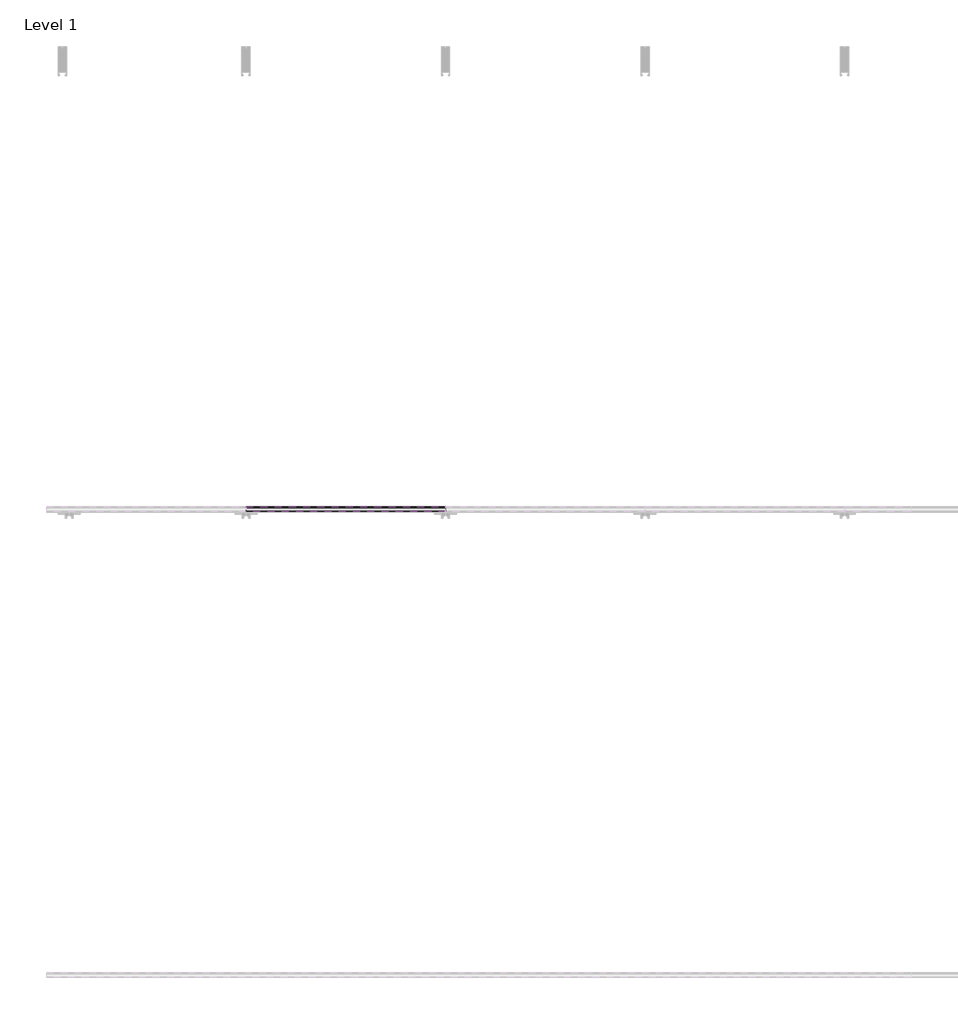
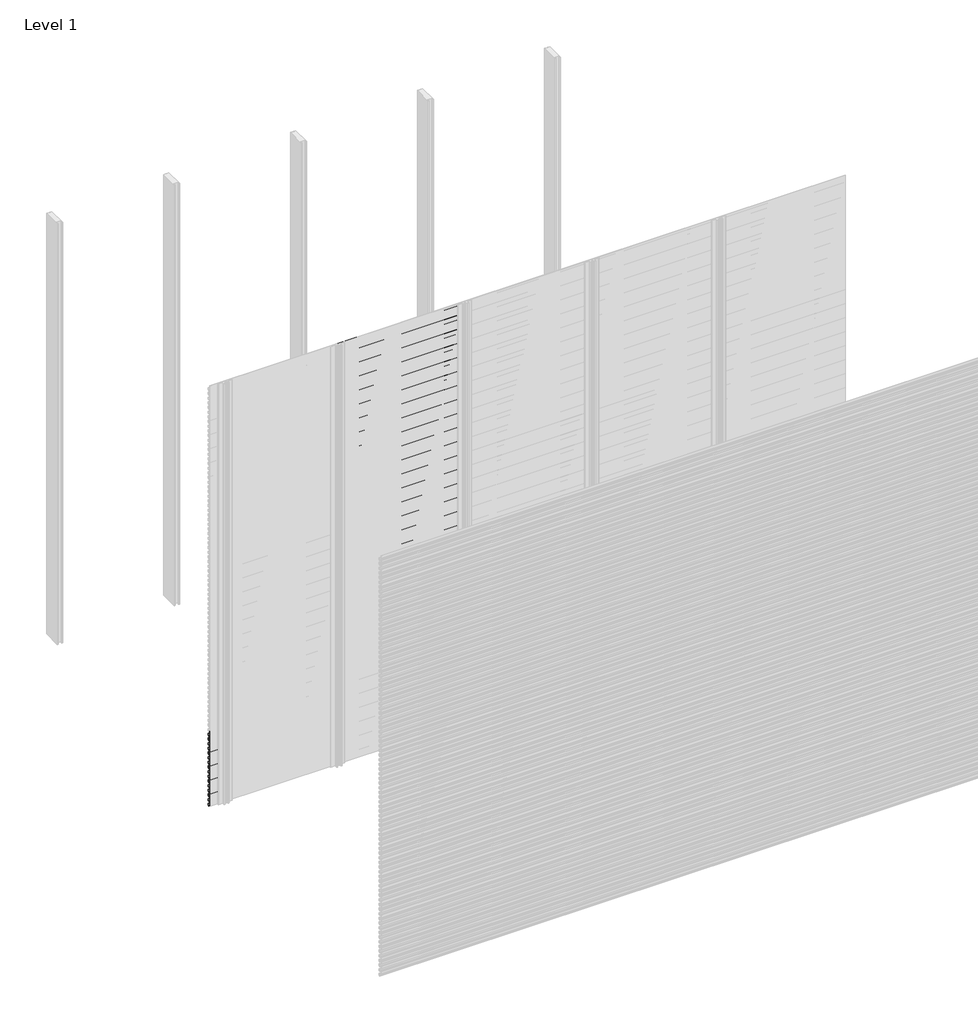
# One storey, part 6 of 96: 77 proxies.
"""IFC4 building model written with IfcOpenShell, lengths in millimetres."""

from ifc_helpers import new_model, si_unit, frame, origin, place, context, project, spatial, polyline, outline, extrude, element, save

model = new_model("IFC4")

# Units and contexts
model_context = context("Model", 3, world=origin())
ifc_project = project(units=[si_unit("LENGTHUNIT", "METRE", prefix="MILLI")], contexts=[model_context])

# Site, building, storey
site = spatial("IfcSite", under=ifc_project)
building = spatial("IfcBuilding", under=site)
storey = spatial("IfcBuildingStorey", under=building, Name="Level 1", Elevation=0.0)

# Proxies
placement = place(None, origin())
element("IfcBuildingElementProxy", 1, Name="Wall Sweeps", at=placement, inside=storey, context=model_context, shape_type="SweptSolid", body=[
    extrude(outline(polyline([(-53977.6, 507.5655033), (-53977.6, 493.2779188), (-53982.4114965, 490.5), (-53982.4114965, 491.7701706), (-53978.85, 493.8264016), (-53978.85, 506.8437382), (-53998.0, 517.9000799), (-53998.0, 532.8), (-53996.75, 532.8), (-53996.75, 518.6217609), (-53977.6, 507.5655033)])), frame((0.0, 0.0, 0.0), z_axis=(1.0, 0.0, 0.0), x_axis=(0.0, 1.0, 0.0)), (0.0, 0.0, 1.0), 857.1428571),
])
element("IfcBuildingElementProxy", 2, Name="Wall Sweeps", at=placement, inside=storey, context=model_context, shape_type="SweptSolid", body=[
    extrude(outline(polyline([(-53977.6, 474.2655033), (-53977.6, 459.9779188), (-53982.4114965, 457.2), (-53982.4114965, 458.4701706), (-53978.85, 460.5264016), (-53978.85, 473.5437382), (-53998.0, 484.6000799), (-53998.0, 499.5), (-53996.75, 499.5), (-53996.75, 485.3217609), (-53977.6, 474.2655033)])), frame((0.0, 0.0, 0.0), z_axis=(1.0, 0.0, 0.0), x_axis=(0.0, 1.0, 0.0)), (0.0, 0.0, 1.0), 857.1428571),
])
element("IfcBuildingElementProxy", 3, Name="Wall Sweeps", at=placement, inside=storey, context=model_context, shape_type="SweptSolid", body=[
    extrude(outline(polyline([(-53977.6, 440.9655033), (-53977.6, 426.6779188), (-53982.4114965, 423.9), (-53982.4114965, 425.1701706), (-53978.85, 427.2264016), (-53978.85, 440.2437382), (-53998.0, 451.3000799), (-53998.0, 466.2), (-53996.75, 466.2), (-53996.75, 452.0217609), (-53977.6, 440.9655033)])), frame((0.0, 0.0, 0.0), z_axis=(1.0, 0.0, 0.0), x_axis=(0.0, 1.0, 0.0)), (0.0, 0.0, 1.0), 857.1428571),
])
element("IfcBuildingElementProxy", 4, Name="Wall Sweeps", at=placement, inside=storey, context=model_context, shape_type="SweptSolid", body=[
    extrude(outline(polyline([(-53977.6, 407.6655033), (-53977.6, 393.3779188), (-53982.4114965, 390.6), (-53982.4114965, 391.8701706), (-53978.85, 393.9264016), (-53978.85, 406.9437382), (-53998.0, 418.0000799), (-53998.0, 432.9), (-53996.75, 432.9), (-53996.75, 418.7217609), (-53977.6, 407.6655033)])), frame((0.0, 0.0, 0.0), z_axis=(1.0, 0.0, 0.0), x_axis=(0.0, 1.0, 0.0)), (0.0, 0.0, 1.0), 857.1428571),
])
element("IfcBuildingElementProxy", 5, Name="Wall Sweeps", at=placement, inside=storey, context=model_context, shape_type="SweptSolid", body=[
    extrude(outline(polyline([(-53977.6, 374.3655033), (-53977.6, 360.0779188), (-53982.4114965, 357.3), (-53982.4114965, 358.5701706), (-53978.85, 360.6264016), (-53978.85, 373.6437382), (-53998.0, 384.7000799), (-53998.0, 399.6), (-53996.75, 399.6), (-53996.75, 385.4217609), (-53977.6, 374.3655033)])), frame((0.0, 0.0, 0.0), z_axis=(1.0, 0.0, 0.0), x_axis=(0.0, 1.0, 0.0)), (0.0, 0.0, 1.0), 857.1428571),
])
element("IfcBuildingElementProxy", 6, Name="Wall Sweeps", at=placement, inside=storey, context=model_context, shape_type="SweptSolid", body=[
    extrude(outline(polyline([(-53977.6, 341.0655033), (-53977.6, 326.7779188), (-53982.4114965, 324.0), (-53982.4114965, 325.2701706), (-53978.85, 327.3264016), (-53978.85, 340.3437382), (-53998.0, 351.4000799), (-53998.0, 366.3), (-53996.75, 366.3), (-53996.75, 352.1217609), (-53977.6, 341.0655033)])), frame((0.0, 0.0, 0.0), z_axis=(1.0, 0.0, 0.0), x_axis=(0.0, 1.0, 0.0)), (0.0, 0.0, 1.0), 857.1428571),
])
element("IfcBuildingElementProxy", 7, Name="Wall Sweeps", at=placement, inside=storey, context=model_context, shape_type="SweptSolid", body=[
    extrude(outline(polyline([(-53977.6, 307.7655033), (-53977.6, 293.4779188), (-53982.4114965, 290.7), (-53982.4114965, 291.9701706), (-53978.85, 294.0264016), (-53978.85, 307.0437382), (-53998.0, 318.1000799), (-53998.0, 333.0), (-53996.75, 333.0), (-53996.75, 318.8217609), (-53977.6, 307.7655033)])), frame((0.0, 0.0, 0.0), z_axis=(1.0, 0.0, 0.0), x_axis=(0.0, 1.0, 0.0)), (0.0, 0.0, 1.0), 857.1428571),
])
element("IfcBuildingElementProxy", 8, Name="Wall Sweeps", at=placement, inside=storey, context=model_context, shape_type="SweptSolid", body=[
    extrude(outline(polyline([(-53977.6, 274.4655033), (-53977.6, 260.1779188), (-53982.4114965, 257.4), (-53982.4114965, 258.6701706), (-53978.85, 260.7264016), (-53978.85, 273.7437382), (-53998.0, 284.8000799), (-53998.0, 299.7), (-53996.75, 299.7), (-53996.75, 285.5217609), (-53977.6, 274.4655033)])), frame((0.0, 0.0, 0.0), z_axis=(1.0, 0.0, 0.0), x_axis=(0.0, 1.0, 0.0)), (0.0, 0.0, 1.0), 857.1428571),
])
element("IfcBuildingElementProxy", 9, Name="Wall Sweeps", at=placement, inside=storey, context=model_context, shape_type="SweptSolid", body=[
    extrude(outline(polyline([(-53977.6, 241.1655033), (-53977.6, 226.8779188), (-53982.4114965, 224.1), (-53982.4114965, 225.3701706), (-53978.85, 227.4264016), (-53978.85, 240.4437382), (-53998.0, 251.5000799), (-53998.0, 266.4), (-53996.75, 266.4), (-53996.75, 252.2217609), (-53977.6, 241.1655033)])), frame((0.0, 0.0, 0.0), z_axis=(1.0, 0.0, 0.0), x_axis=(0.0, 1.0, 0.0)), (0.0, 0.0, 1.0), 857.1428571),
])
element("IfcBuildingElementProxy", 10, Name="Wall Sweeps", at=placement, inside=storey, context=model_context, shape_type="SweptSolid", body=[
    extrude(outline(polyline([(-53977.6, 207.8655033), (-53977.6, 193.5779188), (-53982.4114965, 190.8), (-53982.4114965, 192.0701706), (-53978.85, 194.1264016), (-53978.85, 207.1437382), (-53998.0, 218.2000799), (-53998.0, 233.1), (-53996.75, 233.1), (-53996.75, 218.9217609), (-53977.6, 207.8655033)])), frame((0.0, 0.0, 0.0), z_axis=(1.0, 0.0, 0.0), x_axis=(0.0, 1.0, 0.0)), (0.0, 0.0, 1.0), 857.1428571),
])
element("IfcBuildingElementProxy", 11, Name="Wall Sweeps", at=placement, inside=storey, context=model_context, shape_type="SweptSolid", body=[
    extrude(outline(polyline([(-53977.6, 174.5655033), (-53977.6, 160.2779188), (-53982.4114965, 157.5), (-53982.4114965, 158.7701706), (-53978.85, 160.8264016), (-53978.85, 173.8437382), (-53998.0, 184.9000799), (-53998.0, 199.8), (-53996.75, 199.8), (-53996.75, 185.6217609), (-53977.6, 174.5655033)])), frame((0.0, 0.0, 0.0), z_axis=(1.0, 0.0, 0.0), x_axis=(0.0, 1.0, 0.0)), (0.0, 0.0, 1.0), 857.1428571),
])
element("IfcBuildingElementProxy", 12, Name="Wall Sweeps", at=placement, inside=storey, context=model_context, shape_type="SweptSolid", body=[
    extrude(outline(polyline([(-53977.6, 141.2655033), (-53977.6, 126.9779188), (-53982.4114965, 124.2), (-53982.4114965, 125.4701706), (-53978.85, 127.5264016), (-53978.85, 140.5437382), (-53998.0, 151.6000799), (-53998.0, 166.5), (-53996.75, 166.5), (-53996.75, 152.3217609), (-53977.6, 141.2655033)])), frame((0.0, 0.0, 0.0), z_axis=(1.0, 0.0, 0.0), x_axis=(0.0, 1.0, 0.0)), (0.0, 0.0, 1.0), 857.1428571),
])
element("IfcBuildingElementProxy", 13, Name="Wall Sweeps", at=placement, inside=storey, context=model_context, shape_type="SweptSolid", body=[
    extrude(outline(polyline([(-53977.6, 107.9655033), (-53977.6, 93.6779188), (-53982.4114965, 90.9), (-53982.4114965, 92.1701706), (-53978.85, 94.2264016), (-53978.85, 107.2437382), (-53998.0, 118.3000799), (-53998.0, 133.2), (-53996.75, 133.2), (-53996.75, 119.0217609), (-53977.6, 107.9655033)])), frame((0.0, 0.0, 0.0), z_axis=(1.0, 0.0, 0.0), x_axis=(0.0, 1.0, 0.0)), (0.0, 0.0, 1.0), 857.1428571),
])
element("IfcBuildingElementProxy", 14, Name="Wall Sweeps", at=placement, inside=storey, context=model_context, shape_type="SweptSolid", body=[
    extrude(outline(polyline([(-53977.6, 74.6655033), (-53977.6, 60.3779188), (-53982.4114965, 57.6), (-53982.4114965, 58.8701706), (-53978.85, 60.9264016), (-53978.85, 73.9437382), (-53998.0, 85.0000799), (-53998.0, 99.9), (-53996.75, 99.9), (-53996.75, 85.7217609), (-53977.6, 74.6655033)])), frame((0.0, 0.0, 0.0), z_axis=(1.0, 0.0, 0.0), x_axis=(0.0, 1.0, 0.0)), (0.0, 0.0, 1.0), 857.1428571),
])
element("IfcBuildingElementProxy", 15, Name="Wall Sweeps", at=placement, inside=storey, context=model_context, shape_type="SweptSolid", body=[
    extrude(outline(polyline([(-53977.6, 41.3655033), (-53977.6, 27.0779188), (-53982.4114965, 24.3), (-53982.4114965, 25.5701706), (-53978.85, 27.6264016), (-53978.85, 40.6437382), (-53998.0, 51.7000799), (-53998.0, 66.6), (-53996.75, 66.6), (-53996.75, 52.4217609), (-53977.6, 41.3655033)])), frame((0.0, 0.0, 0.0), z_axis=(1.0, 0.0, 0.0), x_axis=(0.0, 1.0, 0.0)), (0.0, 0.0, 1.0), 857.1428571),
])
element("IfcBuildingElementProxy", 16, Name="Wall Sweeps", at=placement, inside=storey, context=model_context, shape_type="SweptSolid", body=[
    extrude(outline(polyline([(-53977.6, 8.0655033), (-53977.6, -6.2220812), (-53982.4114965, -9.0), (-53982.4114965, -7.7298294), (-53978.85, -5.6735984), (-53978.85, 7.3437382), (-53998.0, 18.4000799), (-53998.0, 33.3), (-53996.75, 33.3), (-53996.75, 19.1217609), (-53977.6, 8.0655033)])), frame((0.0, 0.0, 0.0), z_axis=(1.0, 0.0, 0.0), x_axis=(0.0, 1.0, 0.0)), (0.0, 0.0, 1.0), 857.1428571),
])
element("IfcBuildingElementProxy", 17, Name="Wall Sweeps", at=placement, inside=storey, context=model_context, shape_type="SweptSolid", body=[
    extrude(outline(polyline([(-53977.6, 2971.7655033), (-53977.6, 2957.4779188), (-53982.4114965, 2954.7), (-53982.4114965, 2955.9701706), (-53978.85, 2958.0264016), (-53978.85, 2971.0437382), (-53998.0, 2982.1000799), (-53998.0, 2997.0), (-53996.75, 2997.0), (-53996.75, 2982.8217609), (-53977.6, 2971.7655033)])), frame((857.1428571, 0.0, 0.0), z_axis=(1.0, 0.0, 0.0), x_axis=(0.0, 1.0, 0.0)), (0.0, 0.0, 1.0), 857.1428571),
])
element("IfcBuildingElementProxy", 18, Name="Wall Sweeps", at=placement, inside=storey, context=model_context, shape_type="SweptSolid", body=[
    extrude(outline(polyline([(-53977.6, 2938.4655033), (-53977.6, 2924.1779188), (-53982.4114965, 2921.4), (-53982.4114965, 2922.6701706), (-53978.85, 2924.7264016), (-53978.85, 2937.7437382), (-53998.0, 2948.8000799), (-53998.0, 2963.7), (-53996.75, 2963.7), (-53996.75, 2949.5217609), (-53977.6, 2938.4655033)])), frame((857.1428571, 0.0, 0.0), z_axis=(1.0, 0.0, 0.0), x_axis=(0.0, 1.0, 0.0)), (0.0, 0.0, 1.0), 857.1428571),
])
element("IfcBuildingElementProxy", 19, Name="Wall Sweeps", at=placement, inside=storey, context=model_context, shape_type="SweptSolid", body=[
    extrude(outline(polyline([(-53977.6, 2905.1655033), (-53977.6, 2890.8779188), (-53982.4114965, 2888.1), (-53982.4114965, 2889.3701706), (-53978.85, 2891.4264016), (-53978.85, 2904.4437382), (-53998.0, 2915.5000799), (-53998.0, 2930.4), (-53996.75, 2930.4), (-53996.75, 2916.2217609), (-53977.6, 2905.1655033)])), frame((857.1428571, 0.0, 0.0), z_axis=(1.0, 0.0, 0.0), x_axis=(0.0, 1.0, 0.0)), (0.0, 0.0, 1.0), 857.1428571),
])
element("IfcBuildingElementProxy", 20, Name="Wall Sweeps", at=placement, inside=storey, context=model_context, shape_type="SweptSolid", body=[
    extrude(outline(polyline([(-53977.6, 2871.8655033), (-53977.6, 2857.5779188), (-53982.4114965, 2854.8), (-53982.4114965, 2856.0701706), (-53978.85, 2858.1264016), (-53978.85, 2871.1437382), (-53998.0, 2882.2000799), (-53998.0, 2897.1), (-53996.75, 2897.1), (-53996.75, 2882.9217609), (-53977.6, 2871.8655033)])), frame((857.1428571, 0.0, 0.0), z_axis=(1.0, 0.0, 0.0), x_axis=(0.0, 1.0, 0.0)), (0.0, 0.0, 1.0), 857.1428571),
])
element("IfcBuildingElementProxy", 21, Name="Wall Sweeps", at=placement, inside=storey, context=model_context, shape_type="SweptSolid", body=[
    extrude(outline(polyline([(-53977.6, 2838.5655033), (-53977.6, 2824.2779188), (-53982.4114965, 2821.5), (-53982.4114965, 2822.7701706), (-53978.85, 2824.8264016), (-53978.85, 2837.8437382), (-53998.0, 2848.9000799), (-53998.0, 2863.8), (-53996.75, 2863.8), (-53996.75, 2849.6217609), (-53977.6, 2838.5655033)])), frame((857.1428571, 0.0, 0.0), z_axis=(1.0, 0.0, 0.0), x_axis=(0.0, 1.0, 0.0)), (0.0, 0.0, 1.0), 857.1428571),
])
element("IfcBuildingElementProxy", 22, Name="Wall Sweeps", at=placement, inside=storey, context=model_context, shape_type="SweptSolid", body=[
    extrude(outline(polyline([(-53977.6, 2805.2655033), (-53977.6, 2790.9779188), (-53982.4114965, 2788.2), (-53982.4114965, 2789.4701706), (-53978.85, 2791.5264016), (-53978.85, 2804.5437382), (-53998.0, 2815.6000799), (-53998.0, 2830.5), (-53996.75, 2830.5), (-53996.75, 2816.3217609), (-53977.6, 2805.2655033)])), frame((857.1428571, 0.0, 0.0), z_axis=(1.0, 0.0, 0.0), x_axis=(0.0, 1.0, 0.0)), (0.0, 0.0, 1.0), 857.1428571),
])
element("IfcBuildingElementProxy", 23, Name="Wall Sweeps", at=placement, inside=storey, context=model_context, shape_type="SweptSolid", body=[
    extrude(outline(polyline([(-53977.6, 2771.9655033), (-53977.6, 2757.6779188), (-53982.4114965, 2754.9), (-53982.4114965, 2756.1701706), (-53978.85, 2758.2264016), (-53978.85, 2771.2437382), (-53998.0, 2782.3000799), (-53998.0, 2797.2), (-53996.75, 2797.2), (-53996.75, 2783.0217609), (-53977.6, 2771.9655033)])), frame((857.1428571, 0.0, 0.0), z_axis=(1.0, 0.0, 0.0), x_axis=(0.0, 1.0, 0.0)), (0.0, 0.0, 1.0), 857.1428571),
])
element("IfcBuildingElementProxy", 24, Name="Wall Sweeps", at=placement, inside=storey, context=model_context, shape_type="SweptSolid", body=[
    extrude(outline(polyline([(-53977.6, 2738.6655033), (-53977.6, 2724.3779188), (-53982.4114965, 2721.6), (-53982.4114965, 2722.8701706), (-53978.85, 2724.9264016), (-53978.85, 2737.9437382), (-53998.0, 2749.0000799), (-53998.0, 2763.9), (-53996.75, 2763.9), (-53996.75, 2749.7217609), (-53977.6, 2738.6655033)])), frame((857.1428571, 0.0, 0.0), z_axis=(1.0, 0.0, 0.0), x_axis=(0.0, 1.0, 0.0)), (0.0, 0.0, 1.0), 857.1428571),
])
element("IfcBuildingElementProxy", 25, Name="Wall Sweeps", at=placement, inside=storey, context=model_context, shape_type="SweptSolid", body=[
    extrude(outline(polyline([(-53977.6, 2705.3655033), (-53977.6, 2691.0779188), (-53982.4114965, 2688.3), (-53982.4114965, 2689.5701706), (-53978.85, 2691.6264016), (-53978.85, 2704.6437382), (-53998.0, 2715.7000799), (-53998.0, 2730.6), (-53996.75, 2730.6), (-53996.75, 2716.4217609), (-53977.6, 2705.3655033)])), frame((857.1428571, 0.0, 0.0), z_axis=(1.0, 0.0, 0.0), x_axis=(0.0, 1.0, 0.0)), (0.0, 0.0, 1.0), 857.1428571),
])
element("IfcBuildingElementProxy", 26, Name="Wall Sweeps", at=placement, inside=storey, context=model_context, shape_type="SweptSolid", body=[
    extrude(outline(polyline([(-53977.6, 2672.0655033), (-53977.6, 2657.7779188), (-53982.4114965, 2655.0), (-53982.4114965, 2656.2701706), (-53978.85, 2658.3264016), (-53978.85, 2671.3437382), (-53998.0, 2682.4000799), (-53998.0, 2697.3), (-53996.75, 2697.3), (-53996.75, 2683.1217609), (-53977.6, 2672.0655033)])), frame((857.1428571, 0.0, 0.0), z_axis=(1.0, 0.0, 0.0), x_axis=(0.0, 1.0, 0.0)), (0.0, 0.0, 1.0), 857.1428571),
])
element("IfcBuildingElementProxy", 27, Name="Wall Sweeps", at=placement, inside=storey, context=model_context, shape_type="SweptSolid", body=[
    extrude(outline(polyline([(-53977.6, 2638.7655033), (-53977.6, 2624.4779188), (-53982.4114965, 2621.7), (-53982.4114965, 2622.9701706), (-53978.85, 2625.0264016), (-53978.85, 2638.0437382), (-53998.0, 2649.1000799), (-53998.0, 2664.0), (-53996.75, 2664.0), (-53996.75, 2649.8217609), (-53977.6, 2638.7655033)])), frame((857.1428571, 0.0, 0.0), z_axis=(1.0, 0.0, 0.0), x_axis=(0.0, 1.0, 0.0)), (0.0, 0.0, 1.0), 857.1428571),
])
element("IfcBuildingElementProxy", 28, Name="Wall Sweeps", at=placement, inside=storey, context=model_context, shape_type="SweptSolid", body=[
    extrude(outline(polyline([(-53977.6, 2605.4655033), (-53977.6, 2591.1779188), (-53982.4114965, 2588.4), (-53982.4114965, 2589.6701706), (-53978.85, 2591.7264016), (-53978.85, 2604.7437382), (-53998.0, 2615.8000799), (-53998.0, 2630.7), (-53996.75, 2630.7), (-53996.75, 2616.5217609), (-53977.6, 2605.4655033)])), frame((857.1428571, 0.0, 0.0), z_axis=(1.0, 0.0, 0.0), x_axis=(0.0, 1.0, 0.0)), (0.0, 0.0, 1.0), 857.1428571),
])
element("IfcBuildingElementProxy", 29, Name="Wall Sweeps", at=placement, inside=storey, context=model_context, shape_type="SweptSolid", body=[
    extrude(outline(polyline([(-53977.6, 2572.1655033), (-53977.6, 2557.8779188), (-53982.4114965, 2555.1), (-53982.4114965, 2556.3701706), (-53978.85, 2558.4264016), (-53978.85, 2571.4437382), (-53998.0, 2582.5000799), (-53998.0, 2597.4), (-53996.75, 2597.4), (-53996.75, 2583.2217609), (-53977.6, 2572.1655033)])), frame((857.1428571, 0.0, 0.0), z_axis=(1.0, 0.0, 0.0), x_axis=(0.0, 1.0, 0.0)), (0.0, 0.0, 1.0), 857.1428571),
])
element("IfcBuildingElementProxy", 30, Name="Wall Sweeps", at=placement, inside=storey, context=model_context, shape_type="SweptSolid", body=[
    extrude(outline(polyline([(-53977.6, 2538.8655033), (-53977.6, 2524.5779188), (-53982.4114965, 2521.8), (-53982.4114965, 2523.0701706), (-53978.85, 2525.1264016), (-53978.85, 2538.1437382), (-53998.0, 2549.2000799), (-53998.0, 2564.1), (-53996.75, 2564.1), (-53996.75, 2549.9217609), (-53977.6, 2538.8655033)])), frame((857.1428571, 0.0, 0.0), z_axis=(1.0, 0.0, 0.0), x_axis=(0.0, 1.0, 0.0)), (0.0, 0.0, 1.0), 857.1428571),
])
element("IfcBuildingElementProxy", 31, Name="Wall Sweeps", at=placement, inside=storey, context=model_context, shape_type="SweptSolid", body=[
    extrude(outline(polyline([(-53977.6, 2505.5655033), (-53977.6, 2491.2779188), (-53982.4114965, 2488.5), (-53982.4114965, 2489.7701706), (-53978.85, 2491.8264016), (-53978.85, 2504.8437382), (-53998.0, 2515.9000799), (-53998.0, 2530.8), (-53996.75, 2530.8), (-53996.75, 2516.6217609), (-53977.6, 2505.5655033)])), frame((857.1428571, 0.0, 0.0), z_axis=(1.0, 0.0, 0.0), x_axis=(0.0, 1.0, 0.0)), (0.0, 0.0, 1.0), 857.1428571),
])
element("IfcBuildingElementProxy", 32, Name="Wall Sweeps", at=placement, inside=storey, context=model_context, shape_type="SweptSolid", body=[
    extrude(outline(polyline([(-53977.6, 2472.2655033), (-53977.6, 2457.9779188), (-53982.4114965, 2455.2), (-53982.4114965, 2456.4701706), (-53978.85, 2458.5264016), (-53978.85, 2471.5437382), (-53998.0, 2482.6000799), (-53998.0, 2497.5), (-53996.75, 2497.5), (-53996.75, 2483.3217609), (-53977.6, 2472.2655033)])), frame((857.1428571, 0.0, 0.0), z_axis=(1.0, 0.0, 0.0), x_axis=(0.0, 1.0, 0.0)), (0.0, 0.0, 1.0), 857.1428571),
])
element("IfcBuildingElementProxy", 33, Name="Wall Sweeps", at=placement, inside=storey, context=model_context, shape_type="SweptSolid", body=[
    extrude(outline(polyline([(-53977.6, 2438.9655033), (-53977.6, 2424.6779188), (-53982.4114965, 2421.9), (-53982.4114965, 2423.1701706), (-53978.85, 2425.2264016), (-53978.85, 2438.2437382), (-53998.0, 2449.3000799), (-53998.0, 2464.2), (-53996.75, 2464.2), (-53996.75, 2450.0217609), (-53977.6, 2438.9655033)])), frame((857.1428571, 0.0, 0.0), z_axis=(1.0, 0.0, 0.0), x_axis=(0.0, 1.0, 0.0)), (0.0, 0.0, 1.0), 857.1428571),
])
element("IfcBuildingElementProxy", 34, Name="Wall Sweeps", at=placement, inside=storey, context=model_context, shape_type="SweptSolid", body=[
    extrude(outline(polyline([(-53977.6, 2405.6655033), (-53977.6, 2391.3779188), (-53982.4114965, 2388.6), (-53982.4114965, 2389.8701706), (-53978.85, 2391.9264016), (-53978.85, 2404.9437382), (-53998.0, 2416.0000799), (-53998.0, 2430.9), (-53996.75, 2430.9), (-53996.75, 2416.7217609), (-53977.6, 2405.6655033)])), frame((857.1428571, 0.0, 0.0), z_axis=(1.0, 0.0, 0.0), x_axis=(0.0, 1.0, 0.0)), (0.0, 0.0, 1.0), 857.1428571),
])
element("IfcBuildingElementProxy", 35, Name="Wall Sweeps", at=placement, inside=storey, context=model_context, shape_type="SweptSolid", body=[
    extrude(outline(polyline([(-53977.6, 2372.3655033), (-53977.6, 2358.0779188), (-53982.4114965, 2355.3), (-53982.4114965, 2356.5701706), (-53978.85, 2358.6264016), (-53978.85, 2371.6437382), (-53998.0, 2382.7000799), (-53998.0, 2397.6), (-53996.75, 2397.6), (-53996.75, 2383.4217609), (-53977.6, 2372.3655033)])), frame((857.1428571, 0.0, 0.0), z_axis=(1.0, 0.0, 0.0), x_axis=(0.0, 1.0, 0.0)), (0.0, 0.0, 1.0), 857.1428571),
])
element("IfcBuildingElementProxy", 36, Name="Wall Sweeps", at=placement, inside=storey, context=model_context, shape_type="SweptSolid", body=[
    extrude(outline(polyline([(-53977.6, 2339.0655033), (-53977.6, 2324.7779188), (-53982.4114965, 2322.0), (-53982.4114965, 2323.2701706), (-53978.85, 2325.3264016), (-53978.85, 2338.3437382), (-53998.0, 2349.4000799), (-53998.0, 2364.3), (-53996.75, 2364.3), (-53996.75, 2350.1217609), (-53977.6, 2339.0655033)])), frame((857.1428571, 0.0, 0.0), z_axis=(1.0, 0.0, 0.0), x_axis=(0.0, 1.0, 0.0)), (0.0, 0.0, 1.0), 857.1428571),
])
element("IfcBuildingElementProxy", 37, Name="Wall Sweeps", at=placement, inside=storey, context=model_context, shape_type="SweptSolid", body=[
    extrude(outline(polyline([(-53977.6, 2305.7655033), (-53977.6, 2291.4779188), (-53982.4114965, 2288.7), (-53982.4114965, 2289.9701706), (-53978.85, 2292.0264016), (-53978.85, 2305.0437382), (-53998.0, 2316.1000799), (-53998.0, 2331.0), (-53996.75, 2331.0), (-53996.75, 2316.8217609), (-53977.6, 2305.7655033)])), frame((857.1428571, 0.0, 0.0), z_axis=(1.0, 0.0, 0.0), x_axis=(0.0, 1.0, 0.0)), (0.0, 0.0, 1.0), 857.1428571),
])
element("IfcBuildingElementProxy", 38, Name="Wall Sweeps", at=placement, inside=storey, context=model_context, shape_type="SweptSolid", body=[
    extrude(outline(polyline([(-53977.6, 2272.4655033), (-53977.6, 2258.1779188), (-53982.4114965, 2255.4), (-53982.4114965, 2256.6701706), (-53978.85, 2258.7264016), (-53978.85, 2271.7437382), (-53998.0, 2282.8000799), (-53998.0, 2297.7), (-53996.75, 2297.7), (-53996.75, 2283.5217609), (-53977.6, 2272.4655033)])), frame((857.1428571, 0.0, 0.0), z_axis=(1.0, 0.0, 0.0), x_axis=(0.0, 1.0, 0.0)), (0.0, 0.0, 1.0), 857.1428571),
])
element("IfcBuildingElementProxy", 39, Name="Wall Sweeps", at=placement, inside=storey, context=model_context, shape_type="SweptSolid", body=[
    extrude(outline(polyline([(-53977.6, 2239.1655033), (-53977.6, 2224.8779188), (-53982.4114965, 2222.1), (-53982.4114965, 2223.3701706), (-53978.85, 2225.4264016), (-53978.85, 2238.4437382), (-53998.0, 2249.5000799), (-53998.0, 2264.4), (-53996.75, 2264.4), (-53996.75, 2250.2217609), (-53977.6, 2239.1655033)])), frame((857.1428571, 0.0, 0.0), z_axis=(1.0, 0.0, 0.0), x_axis=(0.0, 1.0, 0.0)), (0.0, 0.0, 1.0), 857.1428571),
])
element("IfcBuildingElementProxy", 40, Name="Wall Sweeps", at=placement, inside=storey, context=model_context, shape_type="SweptSolid", body=[
    extrude(outline(polyline([(-53977.6, 2205.8655033), (-53977.6, 2191.5779188), (-53982.4114965, 2188.8), (-53982.4114965, 2190.0701706), (-53978.85, 2192.1264016), (-53978.85, 2205.1437382), (-53998.0, 2216.2000799), (-53998.0, 2231.1), (-53996.75, 2231.1), (-53996.75, 2216.9217609), (-53977.6, 2205.8655033)])), frame((857.1428571, 0.0, 0.0), z_axis=(1.0, 0.0, 0.0), x_axis=(0.0, 1.0, 0.0)), (0.0, 0.0, 1.0), 857.1428571),
])
element("IfcBuildingElementProxy", 41, Name="Wall Sweeps", at=placement, inside=storey, context=model_context, shape_type="SweptSolid", body=[
    extrude(outline(polyline([(-53977.6, 2172.5655033), (-53977.6, 2158.2779188), (-53982.4114965, 2155.5), (-53982.4114965, 2156.7701706), (-53978.85, 2158.8264016), (-53978.85, 2171.8437382), (-53998.0, 2182.9000799), (-53998.0, 2197.8), (-53996.75, 2197.8), (-53996.75, 2183.6217609), (-53977.6, 2172.5655033)])), frame((857.1428571, 0.0, 0.0), z_axis=(1.0, 0.0, 0.0), x_axis=(0.0, 1.0, 0.0)), (0.0, 0.0, 1.0), 857.1428571),
])
element("IfcBuildingElementProxy", 42, Name="Wall Sweeps", at=placement, inside=storey, context=model_context, shape_type="SweptSolid", body=[
    extrude(outline(polyline([(-53977.6, 2139.2655033), (-53977.6, 2124.9779188), (-53982.4114965, 2122.2), (-53982.4114965, 2123.4701706), (-53978.85, 2125.5264016), (-53978.85, 2138.5437382), (-53998.0, 2149.6000799), (-53998.0, 2164.5), (-53996.75, 2164.5), (-53996.75, 2150.3217609), (-53977.6, 2139.2655033)])), frame((857.1428571, 0.0, 0.0), z_axis=(1.0, 0.0, 0.0), x_axis=(0.0, 1.0, 0.0)), (0.0, 0.0, 1.0), 857.1428571),
])
element("IfcBuildingElementProxy", 43, Name="Wall Sweeps", at=placement, inside=storey, context=model_context, shape_type="SweptSolid", body=[
    extrude(outline(polyline([(-53977.6, 2105.9655033), (-53977.6, 2091.6779188), (-53982.4114965, 2088.9), (-53982.4114965, 2090.1701706), (-53978.85, 2092.2264016), (-53978.85, 2105.2437382), (-53998.0, 2116.3000799), (-53998.0, 2131.2), (-53996.75, 2131.2), (-53996.75, 2117.0217609), (-53977.6, 2105.9655033)])), frame((857.1428571, 0.0, 0.0), z_axis=(1.0, 0.0, 0.0), x_axis=(0.0, 1.0, 0.0)), (0.0, 0.0, 1.0), 857.1428571),
])
element("IfcBuildingElementProxy", 44, Name="Wall Sweeps", at=placement, inside=storey, context=model_context, shape_type="SweptSolid", body=[
    extrude(outline(polyline([(-53977.6, 2072.6655033), (-53977.6, 2058.3779188), (-53982.4114965, 2055.6), (-53982.4114965, 2056.8701706), (-53978.85, 2058.9264016), (-53978.85, 2071.9437382), (-53998.0, 2083.0000799), (-53998.0, 2097.9), (-53996.75, 2097.9), (-53996.75, 2083.7217609), (-53977.6, 2072.6655033)])), frame((857.1428571, 0.0, 0.0), z_axis=(1.0, 0.0, 0.0), x_axis=(0.0, 1.0, 0.0)), (0.0, 0.0, 1.0), 857.1428571),
])
element("IfcBuildingElementProxy", 45, Name="Wall Sweeps", at=placement, inside=storey, context=model_context, shape_type="SweptSolid", body=[
    extrude(outline(polyline([(-53977.6, 2039.3655033), (-53977.6, 2025.0779188), (-53982.4114965, 2022.3), (-53982.4114965, 2023.5701706), (-53978.85, 2025.6264016), (-53978.85, 2038.6437382), (-53998.0, 2049.7000799), (-53998.0, 2064.6), (-53996.75, 2064.6), (-53996.75, 2050.4217609), (-53977.6, 2039.3655033)])), frame((857.1428571, 0.0, 0.0), z_axis=(1.0, 0.0, 0.0), x_axis=(0.0, 1.0, 0.0)), (0.0, 0.0, 1.0), 857.1428571),
])
element("IfcBuildingElementProxy", 46, Name="Wall Sweeps", at=placement, inside=storey, context=model_context, shape_type="SweptSolid", body=[
    extrude(outline(polyline([(-53977.6, 2006.0655033), (-53977.6, 1991.7779188), (-53982.4114965, 1989.0), (-53982.4114965, 1990.2701706), (-53978.85, 1992.3264016), (-53978.85, 2005.3437382), (-53998.0, 2016.4000799), (-53998.0, 2031.3), (-53996.75, 2031.3), (-53996.75, 2017.1217609), (-53977.6, 2006.0655033)])), frame((857.1428571, 0.0, 0.0), z_axis=(1.0, 0.0, 0.0), x_axis=(0.0, 1.0, 0.0)), (0.0, 0.0, 1.0), 857.1428571),
])
element("IfcBuildingElementProxy", 47, Name="Wall Sweeps", at=placement, inside=storey, context=model_context, shape_type="SweptSolid", body=[
    extrude(outline(polyline([(-53977.6, 1972.7655033), (-53977.6, 1958.4779188), (-53982.4114965, 1955.7), (-53982.4114965, 1956.9701706), (-53978.85, 1959.0264016), (-53978.85, 1972.0437382), (-53998.0, 1983.1000799), (-53998.0, 1998.0), (-53996.75, 1998.0), (-53996.75, 1983.8217609), (-53977.6, 1972.7655033)])), frame((857.1428571, 0.0, 0.0), z_axis=(1.0, 0.0, 0.0), x_axis=(0.0, 1.0, 0.0)), (0.0, 0.0, 1.0), 857.1428571),
])
element("IfcBuildingElementProxy", 48, Name="Wall Sweeps", at=placement, inside=storey, context=model_context, shape_type="SweptSolid", body=[
    extrude(outline(polyline([(-53977.6, 1939.4655033), (-53977.6, 1925.1779188), (-53982.4114965, 1922.4), (-53982.4114965, 1923.6701706), (-53978.85, 1925.7264016), (-53978.85, 1938.7437382), (-53998.0, 1949.8000799), (-53998.0, 1964.7), (-53996.75, 1964.7), (-53996.75, 1950.5217609), (-53977.6, 1939.4655033)])), frame((857.1428571, 0.0, 0.0), z_axis=(1.0, 0.0, 0.0), x_axis=(0.0, 1.0, 0.0)), (0.0, 0.0, 1.0), 857.1428571),
])
element("IfcBuildingElementProxy", 49, Name="Wall Sweeps", at=placement, inside=storey, context=model_context, shape_type="SweptSolid", body=[
    extrude(outline(polyline([(-53977.6, 1906.1655033), (-53977.6, 1891.8779188), (-53982.4114965, 1889.1), (-53982.4114965, 1890.3701706), (-53978.85, 1892.4264016), (-53978.85, 1905.4437382), (-53998.0, 1916.5000799), (-53998.0, 1931.4), (-53996.75, 1931.4), (-53996.75, 1917.2217609), (-53977.6, 1906.1655033)])), frame((857.1428571, 0.0, 0.0), z_axis=(1.0, 0.0, 0.0), x_axis=(0.0, 1.0, 0.0)), (0.0, 0.0, 1.0), 857.1428571),
])
element("IfcBuildingElementProxy", 50, Name="Wall Sweeps", at=placement, inside=storey, context=model_context, shape_type="SweptSolid", body=[
    extrude(outline(polyline([(-53977.6, 1872.8655033), (-53977.6, 1858.5779188), (-53982.4114965, 1855.8), (-53982.4114965, 1857.0701706), (-53978.85, 1859.1264016), (-53978.85, 1872.1437382), (-53998.0, 1883.2000799), (-53998.0, 1898.1), (-53996.75, 1898.1), (-53996.75, 1883.9217609), (-53977.6, 1872.8655033)])), frame((857.1428571, 0.0, 0.0), z_axis=(1.0, 0.0, 0.0), x_axis=(0.0, 1.0, 0.0)), (0.0, 0.0, 1.0), 857.1428571),
])
element("IfcBuildingElementProxy", 51, Name="Wall Sweeps", at=placement, inside=storey, context=model_context, shape_type="SweptSolid", body=[
    extrude(outline(polyline([(-53977.6, 1839.5655033), (-53977.6, 1825.2779188), (-53982.4114965, 1822.5), (-53982.4114965, 1823.7701706), (-53978.85, 1825.8264016), (-53978.85, 1838.8437382), (-53998.0, 1849.9000799), (-53998.0, 1864.8), (-53996.75, 1864.8), (-53996.75, 1850.6217609), (-53977.6, 1839.5655033)])), frame((857.1428571, 0.0, 0.0), z_axis=(1.0, 0.0, 0.0), x_axis=(0.0, 1.0, 0.0)), (0.0, 0.0, 1.0), 857.1428571),
])
element("IfcBuildingElementProxy", 52, Name="Wall Sweeps", at=placement, inside=storey, context=model_context, shape_type="SweptSolid", body=[
    extrude(outline(polyline([(-53977.6, 1806.2655033), (-53977.6, 1791.9779188), (-53982.4114965, 1789.2), (-53982.4114965, 1790.4701706), (-53978.85, 1792.5264016), (-53978.85, 1805.5437382), (-53998.0, 1816.6000799), (-53998.0, 1831.5), (-53996.75, 1831.5), (-53996.75, 1817.3217609), (-53977.6, 1806.2655033)])), frame((857.1428571, 0.0, 0.0), z_axis=(1.0, 0.0, 0.0), x_axis=(0.0, 1.0, 0.0)), (0.0, 0.0, 1.0), 857.1428571),
])
element("IfcBuildingElementProxy", 53, Name="Wall Sweeps", at=placement, inside=storey, context=model_context, shape_type="SweptSolid", body=[
    extrude(outline(polyline([(-53977.6, 1772.9655033), (-53977.6, 1758.6779188), (-53982.4114965, 1755.9), (-53982.4114965, 1757.1701706), (-53978.85, 1759.2264016), (-53978.85, 1772.2437382), (-53998.0, 1783.3000799), (-53998.0, 1798.2), (-53996.75, 1798.2), (-53996.75, 1784.0217609), (-53977.6, 1772.9655033)])), frame((857.1428571, 0.0, 0.0), z_axis=(1.0, 0.0, 0.0), x_axis=(0.0, 1.0, 0.0)), (0.0, 0.0, 1.0), 857.1428571),
])
element("IfcBuildingElementProxy", 54, Name="Wall Sweeps", at=placement, inside=storey, context=model_context, shape_type="SweptSolid", body=[
    extrude(outline(polyline([(-53977.6, 1739.6655033), (-53977.6, 1725.3779188), (-53982.4114965, 1722.6), (-53982.4114965, 1723.8701706), (-53978.85, 1725.9264016), (-53978.85, 1738.9437382), (-53998.0, 1750.0000799), (-53998.0, 1764.9), (-53996.75, 1764.9), (-53996.75, 1750.7217609), (-53977.6, 1739.6655033)])), frame((857.1428571, 0.0, 0.0), z_axis=(1.0, 0.0, 0.0), x_axis=(0.0, 1.0, 0.0)), (0.0, 0.0, 1.0), 857.1428571),
])
element("IfcBuildingElementProxy", 55, Name="Wall Sweeps", at=placement, inside=storey, context=model_context, shape_type="SweptSolid", body=[
    extrude(outline(polyline([(-53977.6, 1706.3655033), (-53977.6, 1692.0779188), (-53982.4114965, 1689.3), (-53982.4114965, 1690.5701706), (-53978.85, 1692.6264016), (-53978.85, 1705.6437382), (-53998.0, 1716.7000799), (-53998.0, 1731.6), (-53996.75, 1731.6), (-53996.75, 1717.4217609), (-53977.6, 1706.3655033)])), frame((857.1428571, 0.0, 0.0), z_axis=(1.0, 0.0, 0.0), x_axis=(0.0, 1.0, 0.0)), (0.0, 0.0, 1.0), 857.1428571),
])
element("IfcBuildingElementProxy", 56, Name="Wall Sweeps", at=placement, inside=storey, context=model_context, shape_type="SweptSolid", body=[
    extrude(outline(polyline([(-53977.6, 1673.0655033), (-53977.6, 1658.7779188), (-53982.4114965, 1656.0), (-53982.4114965, 1657.2701706), (-53978.85, 1659.3264016), (-53978.85, 1672.3437382), (-53998.0, 1683.4000799), (-53998.0, 1698.3), (-53996.75, 1698.3), (-53996.75, 1684.1217609), (-53977.6, 1673.0655033)])), frame((857.1428571, 0.0, 0.0), z_axis=(1.0, 0.0, 0.0), x_axis=(0.0, 1.0, 0.0)), (0.0, 0.0, 1.0), 857.1428571),
])
element("IfcBuildingElementProxy", 57, Name="Wall Sweeps", at=placement, inside=storey, context=model_context, shape_type="SweptSolid", body=[
    extrude(outline(polyline([(-53977.6, 1639.7655033), (-53977.6, 1625.4779188), (-53982.4114965, 1622.7), (-53982.4114965, 1623.9701706), (-53978.85, 1626.0264016), (-53978.85, 1639.0437382), (-53998.0, 1650.1000799), (-53998.0, 1665.0), (-53996.75, 1665.0), (-53996.75, 1650.8217609), (-53977.6, 1639.7655033)])), frame((857.1428571, 0.0, 0.0), z_axis=(1.0, 0.0, 0.0), x_axis=(0.0, 1.0, 0.0)), (0.0, 0.0, 1.0), 857.1428571),
])
element("IfcBuildingElementProxy", 58, Name="Wall Sweeps", at=placement, inside=storey, context=model_context, shape_type="SweptSolid", body=[
    extrude(outline(polyline([(-53977.6, 1606.4655033), (-53977.6, 1592.1779188), (-53982.4114965, 1589.4), (-53982.4114965, 1590.6701706), (-53978.85, 1592.7264016), (-53978.85, 1605.7437382), (-53998.0, 1616.8000799), (-53998.0, 1631.7), (-53996.75, 1631.7), (-53996.75, 1617.5217609), (-53977.6, 1606.4655033)])), frame((857.1428571, 0.0, 0.0), z_axis=(1.0, 0.0, 0.0), x_axis=(0.0, 1.0, 0.0)), (0.0, 0.0, 1.0), 857.1428571),
])
element("IfcBuildingElementProxy", 59, Name="Wall Sweeps", at=placement, inside=storey, context=model_context, shape_type="SweptSolid", body=[
    extrude(outline(polyline([(-53977.6, 1573.1655033), (-53977.6, 1558.8779188), (-53982.4114965, 1556.1), (-53982.4114965, 1557.3701706), (-53978.85, 1559.4264016), (-53978.85, 1572.4437382), (-53998.0, 1583.5000799), (-53998.0, 1598.4), (-53996.75, 1598.4), (-53996.75, 1584.2217609), (-53977.6, 1573.1655033)])), frame((857.1428571, 0.0, 0.0), z_axis=(1.0, 0.0, 0.0), x_axis=(0.0, 1.0, 0.0)), (0.0, 0.0, 1.0), 857.1428571),
])
element("IfcBuildingElementProxy", 60, Name="Wall Sweeps", at=placement, inside=storey, context=model_context, shape_type="SweptSolid", body=[
    extrude(outline(polyline([(-53977.6, 1539.8655033), (-53977.6, 1525.5779188), (-53982.4114965, 1522.8), (-53982.4114965, 1524.0701706), (-53978.85, 1526.1264016), (-53978.85, 1539.1437382), (-53998.0, 1550.2000799), (-53998.0, 1565.1), (-53996.75, 1565.1), (-53996.75, 1550.9217609), (-53977.6, 1539.8655033)])), frame((857.1428571, 0.0, 0.0), z_axis=(1.0, 0.0, 0.0), x_axis=(0.0, 1.0, 0.0)), (0.0, 0.0, 1.0), 857.1428571),
])
element("IfcBuildingElementProxy", 61, Name="Wall Sweeps", at=placement, inside=storey, context=model_context, shape_type="SweptSolid", body=[
    extrude(outline(polyline([(-53977.6, 1506.5655033), (-53977.6, 1492.2779188), (-53982.4114965, 1489.5), (-53982.4114965, 1490.7701706), (-53978.85, 1492.8264016), (-53978.85, 1505.8437382), (-53998.0, 1516.9000799), (-53998.0, 1531.8), (-53996.75, 1531.8), (-53996.75, 1517.6217609), (-53977.6, 1506.5655033)])), frame((857.1428571, 0.0, 0.0), z_axis=(1.0, 0.0, 0.0), x_axis=(0.0, 1.0, 0.0)), (0.0, 0.0, 1.0), 857.1428571),
])
element("IfcBuildingElementProxy", 62, Name="Wall Sweeps", at=placement, inside=storey, context=model_context, shape_type="SweptSolid", body=[
    extrude(outline(polyline([(-53977.6, 1473.2655033), (-53977.6, 1458.9779188), (-53982.4114965, 1456.2), (-53982.4114965, 1457.4701706), (-53978.85, 1459.5264016), (-53978.85, 1472.5437382), (-53998.0, 1483.6000799), (-53998.0, 1498.5), (-53996.75, 1498.5), (-53996.75, 1484.3217609), (-53977.6, 1473.2655033)])), frame((857.1428571, 0.0, 0.0), z_axis=(1.0, 0.0, 0.0), x_axis=(0.0, 1.0, 0.0)), (0.0, 0.0, 1.0), 857.1428571),
])
element("IfcBuildingElementProxy", 63, Name="Wall Sweeps", at=placement, inside=storey, context=model_context, shape_type="SweptSolid", body=[
    extrude(outline(polyline([(-53977.6, 1439.9655033), (-53977.6, 1425.6779188), (-53982.4114965, 1422.9), (-53982.4114965, 1424.1701706), (-53978.85, 1426.2264016), (-53978.85, 1439.2437382), (-53998.0, 1450.3000799), (-53998.0, 1465.2), (-53996.75, 1465.2), (-53996.75, 1451.0217609), (-53977.6, 1439.9655033)])), frame((857.1428571, 0.0, 0.0), z_axis=(1.0, 0.0, 0.0), x_axis=(0.0, 1.0, 0.0)), (0.0, 0.0, 1.0), 857.1428571),
])
element("IfcBuildingElementProxy", 64, Name="Wall Sweeps", at=placement, inside=storey, context=model_context, shape_type="SweptSolid", body=[
    extrude(outline(polyline([(-53977.6, 1406.6655033), (-53977.6, 1392.3779188), (-53982.4114965, 1389.6), (-53982.4114965, 1390.8701706), (-53978.85, 1392.9264016), (-53978.85, 1405.9437382), (-53998.0, 1417.0000799), (-53998.0, 1431.9), (-53996.75, 1431.9), (-53996.75, 1417.7217609), (-53977.6, 1406.6655033)])), frame((857.1428571, 0.0, 0.0), z_axis=(1.0, 0.0, 0.0), x_axis=(0.0, 1.0, 0.0)), (0.0, 0.0, 1.0), 857.1428571),
])
element("IfcBuildingElementProxy", 65, Name="Wall Sweeps", at=placement, inside=storey, context=model_context, shape_type="SweptSolid", body=[
    extrude(outline(polyline([(-53977.6, 1373.3655033), (-53977.6, 1359.0779188), (-53982.4114965, 1356.3), (-53982.4114965, 1357.5701706), (-53978.85, 1359.6264016), (-53978.85, 1372.6437382), (-53998.0, 1383.7000799), (-53998.0, 1398.6), (-53996.75, 1398.6), (-53996.75, 1384.4217609), (-53977.6, 1373.3655033)])), frame((857.1428571, 0.0, 0.0), z_axis=(1.0, 0.0, 0.0), x_axis=(0.0, 1.0, 0.0)), (0.0, 0.0, 1.0), 857.1428571),
])
element("IfcBuildingElementProxy", 66, Name="Wall Sweeps", at=placement, inside=storey, context=model_context, shape_type="SweptSolid", body=[
    extrude(outline(polyline([(-53977.6, 1340.0655033), (-53977.6, 1325.7779188), (-53982.4114965, 1323.0), (-53982.4114965, 1324.2701706), (-53978.85, 1326.3264016), (-53978.85, 1339.3437382), (-53998.0, 1350.4000799), (-53998.0, 1365.3), (-53996.75, 1365.3), (-53996.75, 1351.1217609), (-53977.6, 1340.0655033)])), frame((857.1428571, 0.0, 0.0), z_axis=(1.0, 0.0, 0.0), x_axis=(0.0, 1.0, 0.0)), (0.0, 0.0, 1.0), 857.1428571),
])
element("IfcBuildingElementProxy", 67, Name="Wall Sweeps", at=placement, inside=storey, context=model_context, shape_type="SweptSolid", body=[
    extrude(outline(polyline([(-53977.6, 1306.7655033), (-53977.6, 1292.4779188), (-53982.4114965, 1289.7), (-53982.4114965, 1290.9701706), (-53978.85, 1293.0264016), (-53978.85, 1306.0437382), (-53998.0, 1317.1000799), (-53998.0, 1332.0), (-53996.75, 1332.0), (-53996.75, 1317.8217609), (-53977.6, 1306.7655033)])), frame((857.1428571, 0.0, 0.0), z_axis=(1.0, 0.0, 0.0), x_axis=(0.0, 1.0, 0.0)), (0.0, 0.0, 1.0), 857.1428571),
])
element("IfcBuildingElementProxy", 68, Name="Wall Sweeps", at=placement, inside=storey, context=model_context, shape_type="SweptSolid", body=[
    extrude(outline(polyline([(-53977.6, 1273.4655033), (-53977.6, 1259.1779188), (-53982.4114965, 1256.4), (-53982.4114965, 1257.6701706), (-53978.85, 1259.7264016), (-53978.85, 1272.7437382), (-53998.0, 1283.8000799), (-53998.0, 1298.7), (-53996.75, 1298.7), (-53996.75, 1284.5217609), (-53977.6, 1273.4655033)])), frame((857.1428571, 0.0, 0.0), z_axis=(1.0, 0.0, 0.0), x_axis=(0.0, 1.0, 0.0)), (0.0, 0.0, 1.0), 857.1428571),
])
element("IfcBuildingElementProxy", 69, Name="Wall Sweeps", at=placement, inside=storey, context=model_context, shape_type="SweptSolid", body=[
    extrude(outline(polyline([(-53977.6, 1240.1655033), (-53977.6, 1225.8779188), (-53982.4114965, 1223.1), (-53982.4114965, 1224.3701706), (-53978.85, 1226.4264016), (-53978.85, 1239.4437382), (-53998.0, 1250.5000799), (-53998.0, 1265.4), (-53996.75, 1265.4), (-53996.75, 1251.2217609), (-53977.6, 1240.1655033)])), frame((857.1428571, 0.0, 0.0), z_axis=(1.0, 0.0, 0.0), x_axis=(0.0, 1.0, 0.0)), (0.0, 0.0, 1.0), 857.1428571),
])
element("IfcBuildingElementProxy", 70, Name="Wall Sweeps", at=placement, inside=storey, context=model_context, shape_type="SweptSolid", body=[
    extrude(outline(polyline([(-53977.6, 1206.8655033), (-53977.6, 1192.5779188), (-53982.4114965, 1189.8), (-53982.4114965, 1191.0701706), (-53978.85, 1193.1264016), (-53978.85, 1206.1437382), (-53998.0, 1217.2000799), (-53998.0, 1232.1), (-53996.75, 1232.1), (-53996.75, 1217.9217609), (-53977.6, 1206.8655033)])), frame((857.1428571, 0.0, 0.0), z_axis=(1.0, 0.0, 0.0), x_axis=(0.0, 1.0, 0.0)), (0.0, 0.0, 1.0), 857.1428571),
])
element("IfcBuildingElementProxy", 71, Name="Wall Sweeps", at=placement, inside=storey, context=model_context, shape_type="SweptSolid", body=[
    extrude(outline(polyline([(-53977.6, 1173.5655033), (-53977.6, 1159.2779188), (-53982.4114965, 1156.5), (-53982.4114965, 1157.7701706), (-53978.85, 1159.8264016), (-53978.85, 1172.8437382), (-53998.0, 1183.9000799), (-53998.0, 1198.8), (-53996.75, 1198.8), (-53996.75, 1184.6217609), (-53977.6, 1173.5655033)])), frame((857.1428571, 0.0, 0.0), z_axis=(1.0, 0.0, 0.0), x_axis=(0.0, 1.0, 0.0)), (0.0, 0.0, 1.0), 857.1428571),
])
element("IfcBuildingElementProxy", 72, Name="Wall Sweeps", at=placement, inside=storey, context=model_context, shape_type="SweptSolid", body=[
    extrude(outline(polyline([(-53977.6, 1140.2655033), (-53977.6, 1125.9779188), (-53982.4114965, 1123.2), (-53982.4114965, 1124.4701706), (-53978.85, 1126.5264016), (-53978.85, 1139.5437382), (-53998.0, 1150.6000799), (-53998.0, 1165.5), (-53996.75, 1165.5), (-53996.75, 1151.3217609), (-53977.6, 1140.2655033)])), frame((857.1428571, 0.0, 0.0), z_axis=(1.0, 0.0, 0.0), x_axis=(0.0, 1.0, 0.0)), (0.0, 0.0, 1.0), 857.1428571),
])
element("IfcBuildingElementProxy", 73, Name="Wall Sweeps", at=placement, inside=storey, context=model_context, shape_type="SweptSolid", body=[
    extrude(outline(polyline([(-53977.6, 1106.9655033), (-53977.6, 1092.6779188), (-53982.4114965, 1089.9), (-53982.4114965, 1091.1701706), (-53978.85, 1093.2264016), (-53978.85, 1106.2437382), (-53998.0, 1117.3000799), (-53998.0, 1132.2), (-53996.75, 1132.2), (-53996.75, 1118.0217609), (-53977.6, 1106.9655033)])), frame((857.1428571, 0.0, 0.0), z_axis=(1.0, 0.0, 0.0), x_axis=(0.0, 1.0, 0.0)), (0.0, 0.0, 1.0), 857.1428571),
])
element("IfcBuildingElementProxy", 74, Name="Wall Sweeps", at=placement, inside=storey, context=model_context, shape_type="SweptSolid", body=[
    extrude(outline(polyline([(-53977.6, 1073.6655033), (-53977.6, 1059.3779188), (-53982.4114965, 1056.6), (-53982.4114965, 1057.8701706), (-53978.85, 1059.9264016), (-53978.85, 1072.9437382), (-53998.0, 1084.0000799), (-53998.0, 1098.9), (-53996.75, 1098.9), (-53996.75, 1084.7217609), (-53977.6, 1073.6655033)])), frame((857.1428571, 0.0, 0.0), z_axis=(1.0, 0.0, 0.0), x_axis=(0.0, 1.0, 0.0)), (0.0, 0.0, 1.0), 857.1428571),
])
element("IfcBuildingElementProxy", 75, Name="Wall Sweeps", at=placement, inside=storey, context=model_context, shape_type="SweptSolid", body=[
    extrude(outline(polyline([(-53977.6, 1040.3655033), (-53977.6, 1026.0779188), (-53982.4114965, 1023.3), (-53982.4114965, 1024.5701706), (-53978.85, 1026.6264016), (-53978.85, 1039.6437382), (-53998.0, 1050.7000799), (-53998.0, 1065.6), (-53996.75, 1065.6), (-53996.75, 1051.4217609), (-53977.6, 1040.3655033)])), frame((857.1428571, 0.0, 0.0), z_axis=(1.0, 0.0, 0.0), x_axis=(0.0, 1.0, 0.0)), (0.0, 0.0, 1.0), 857.1428571),
])
element("IfcBuildingElementProxy", 76, Name="Wall Sweeps", at=placement, inside=storey, context=model_context, shape_type="SweptSolid", body=[
    extrude(outline(polyline([(-53977.6, 1007.0655033), (-53977.6, 992.7779188), (-53982.4114965, 990.0), (-53982.4114965, 991.2701706), (-53978.85, 993.3264016), (-53978.85, 1006.3437382), (-53998.0, 1017.4000799), (-53998.0, 1032.3), (-53996.75, 1032.3), (-53996.75, 1018.1217609), (-53977.6, 1007.0655033)])), frame((857.1428571, 0.0, 0.0), z_axis=(1.0, 0.0, 0.0), x_axis=(0.0, 1.0, 0.0)), (0.0, 0.0, 1.0), 857.1428571),
])
element("IfcBuildingElementProxy", 77, Name="Wall Sweeps", at=placement, inside=storey, context=model_context, shape_type="SweptSolid", body=[
    extrude(outline(polyline([(-53977.6, 973.7655033), (-53977.6, 959.4779188), (-53982.4114965, 956.7), (-53982.4114965, 957.9701706), (-53978.85, 960.0264016), (-53978.85, 973.0437382), (-53998.0, 984.1000799), (-53998.0, 999.0), (-53996.75, 999.0), (-53996.75, 984.8217609), (-53977.6, 973.7655033)])), frame((857.1428571, 0.0, 0.0), z_axis=(1.0, 0.0, 0.0), x_axis=(0.0, 1.0, 0.0)), (0.0, 0.0, 1.0), 857.1428571),
])

save(model, "model.ifc")
